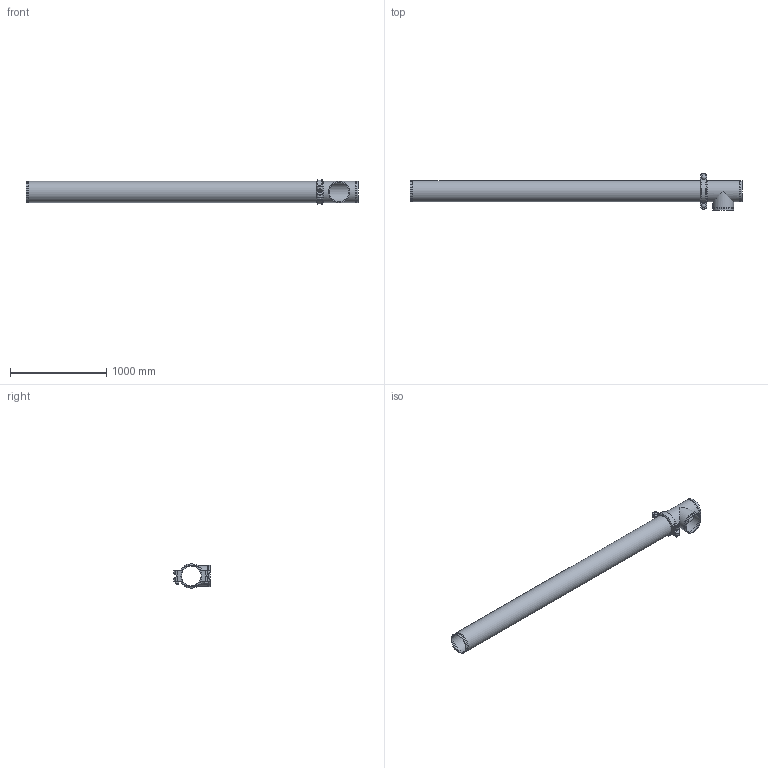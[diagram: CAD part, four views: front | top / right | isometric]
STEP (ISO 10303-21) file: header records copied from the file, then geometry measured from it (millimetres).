
FILE_DESCRIPTION(/* description */ ('VIC LONG RUN FITTING No R25 (OGS)','CAx-IF Rec.Pracs.---Representation and Presentation of Product Manufacturing Information (PMI)---4.0---2014-10-13'),/* implementation_level */ '2;1');
FILE_NAME(/* name */ 'C:\Users\Vjadhav\AppData\Roaming\Autodesk\ApplicationPlugins\Back Up\Victaulic_IPS_Long Run Fittings_No R25 (OGS)\Victaulic_IPS_Long Run Fittings_No R25 (OGS)_8 (200).stp',/* time_stamp */ '2020-10-14T10:39:06+05:00',/* author */ ('Vjadhav'),/* organization */ ('Victaulic'),/* preprocessor_version */ 'ST-DEVELOPER v17.2',/* originating_system */ 'Autodesk Inventor 2019',/* authorisation */ '');
FILE_SCHEMA (('AP242_MANAGED_MODEL_BASED_3D_ENGINEERING_MIM_LF { 1 0 10303 442 1 1 4 }'));
Length unit declared in the file: inch
Products named in the file (4): R25-08.0; 020-08.0; 177N-08.0; Pipe_R13-08.0
Assembly tree (3 placements, depth 2):
  R25-08.0
    020-08.0
    177N-08.0
    Pipe_R13-08.0
Bounding box: 3451.35 x 381.23 x 253.04 mm (x, y, z)
Volume: 20463388.6 mm3; surface area: 4891513.1 mm2
Topology: 3 solids, 3 shells, 122 faces, 331 edges, 226 vertices
Faces by surface type: plane 71, cylinder 41, cone 4, torus 4, sphere 2
Full cylindrical faces by diameter (mm): 22.225 x2, 42.85 x2, 202.717 x3, 206.375 x1, 214.401 x5, 219.075 x10
Entity records: 4315 total; most frequent: CARTESIAN_POINT 762, DIRECTION 723, ORIENTED_EDGE 670, EDGE_CURVE 335, AXIS2_PLACEMENT_3D 275, VERTEX_POINT 226, LINE 173, VECTOR 173
